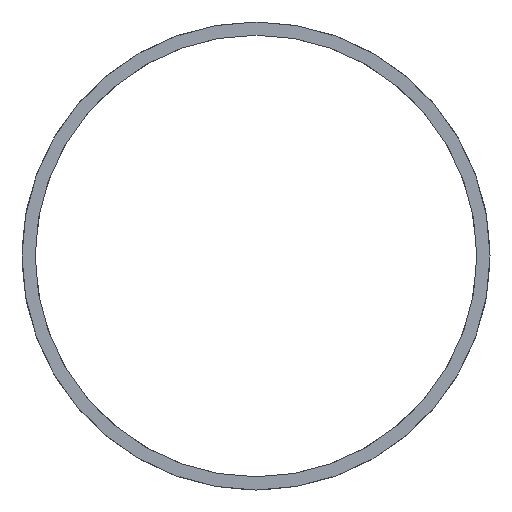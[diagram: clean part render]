
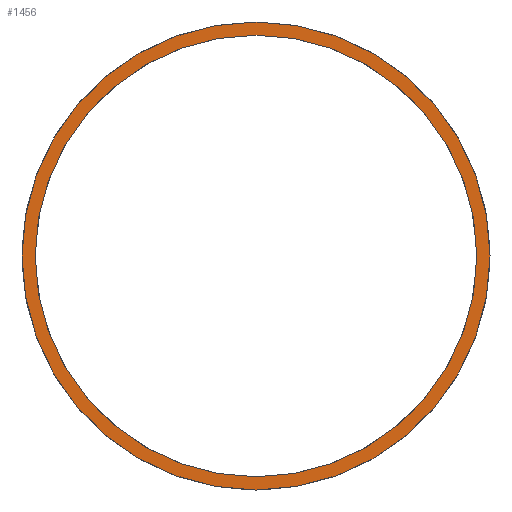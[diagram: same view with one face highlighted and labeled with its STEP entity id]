
A CAD part, left-side view. The second image highlights one B-rep face of the part: STEP entity #1456.
In plain terms, the highlighted planar face has unit normal (-1, 0, 0).
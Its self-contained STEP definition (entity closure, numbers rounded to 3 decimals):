
#22 = VERTEX_POINT('',#23);
#23 = CARTESIAN_POINT('',(28.,0.,21.25));
#32 = CYLINDRICAL_SURFACE('',#33,21.25);
#33 = AXIS2_PLACEMENT_3D('',#34,#35,#36);
#34 = CARTESIAN_POINT('',(28.,0.,0.));
#35 = DIRECTION('',(1.,0.,0.));
#36 = DIRECTION('',(-0.,0.,1.));
#294 = EDGE_CURVE('',#22,#22,#295,.T.);
#295 = SURFACE_CURVE('',#296,(#301,#308),.PCURVE_S1.);
#296 = CIRCLE('',#297,21.25);
#297 = AXIS2_PLACEMENT_3D('',#298,#299,#300);
#298 = CARTESIAN_POINT('',(28.,0.,0.));
#299 = DIRECTION('',(1.,0.,0.));
#300 = DIRECTION('',(-0.,0.,1.));
#301 = PCURVE('',#32,#302);
#302 = DEFINITIONAL_REPRESENTATION('',(#303),#307);
#303 = LINE('',#304,#305);
#304 = CARTESIAN_POINT('',(0.,0.));
#305 = VECTOR('',#306,1.);
#306 = DIRECTION('',(1.,0.));
#307 = ( GEOMETRIC_REPRESENTATION_CONTEXT(2) 
PARAMETRIC_REPRESENTATION_CONTEXT() REPRESENTATION_CONTEXT('2D SPACE',''
  ) );
#308 = PCURVE('',#309,#314);
#309 = PLANE('',#310);
#310 = AXIS2_PLACEMENT_3D('',#311,#312,#313);
#311 = CARTESIAN_POINT('',(28.,0.,0.));
#312 = DIRECTION('',(1.,0.,0.));
#313 = DIRECTION('',(-0.,0.,1.));
#314 = DEFINITIONAL_REPRESENTATION('',(#315),#319);
#315 = CIRCLE('',#316,21.25);
#316 = AXIS2_PLACEMENT_2D('',#317,#318);
#317 = CARTESIAN_POINT('',(0.,0.));
#318 = DIRECTION('',(1.,0.));
#319 = ( GEOMETRIC_REPRESENTATION_CONTEXT(2) 
PARAMETRIC_REPRESENTATION_CONTEXT() REPRESENTATION_CONTEXT('2D SPACE',''
  ) );
#361 = CYLINDRICAL_SURFACE('',#362,20.05);
#362 = AXIS2_PLACEMENT_3D('',#363,#364,#365);
#363 = CARTESIAN_POINT('',(27.,0.,0.));
#364 = DIRECTION('',(1.,0.,0.));
#365 = DIRECTION('',(-0.,0.,1.));
#448 = VERTEX_POINT('',#449);
#449 = CARTESIAN_POINT('',(28.,0.,20.05));
#658 = EDGE_CURVE('',#448,#448,#659,.T.);
#659 = SURFACE_CURVE('',#660,(#665,#672),.PCURVE_S1.);
#660 = CIRCLE('',#661,20.05);
#661 = AXIS2_PLACEMENT_3D('',#662,#663,#664);
#662 = CARTESIAN_POINT('',(28.,0.,0.));
#663 = DIRECTION('',(1.,0.,0.));
#664 = DIRECTION('',(-0.,0.,1.));
#665 = PCURVE('',#361,#666);
#666 = DEFINITIONAL_REPRESENTATION('',(#667),#671);
#667 = LINE('',#668,#669);
#668 = CARTESIAN_POINT('',(0.,1.));
#669 = VECTOR('',#670,1.);
#670 = DIRECTION('',(1.,0.));
#671 = ( GEOMETRIC_REPRESENTATION_CONTEXT(2) 
PARAMETRIC_REPRESENTATION_CONTEXT() REPRESENTATION_CONTEXT('2D SPACE',''
  ) );
#672 = PCURVE('',#309,#673);
#673 = DEFINITIONAL_REPRESENTATION('',(#674),#678);
#674 = CIRCLE('',#675,20.05);
#675 = AXIS2_PLACEMENT_2D('',#676,#677);
#676 = CARTESIAN_POINT('',(0.,0.));
#677 = DIRECTION('',(1.,0.));
#678 = ( GEOMETRIC_REPRESENTATION_CONTEXT(2) 
PARAMETRIC_REPRESENTATION_CONTEXT() REPRESENTATION_CONTEXT('2D SPACE',''
  ) );
#1456 = ADVANCED_FACE('',(#1457,#1460),#309,.F.);
#1457 = FACE_BOUND('',#1458,.F.);
#1458 = EDGE_LOOP('',(#1459));
#1459 = ORIENTED_EDGE('',*,*,#294,.T.);
#1460 = FACE_BOUND('',#1461,.F.);
#1461 = EDGE_LOOP('',(#1462));
#1462 = ORIENTED_EDGE('',*,*,#658,.F.);
